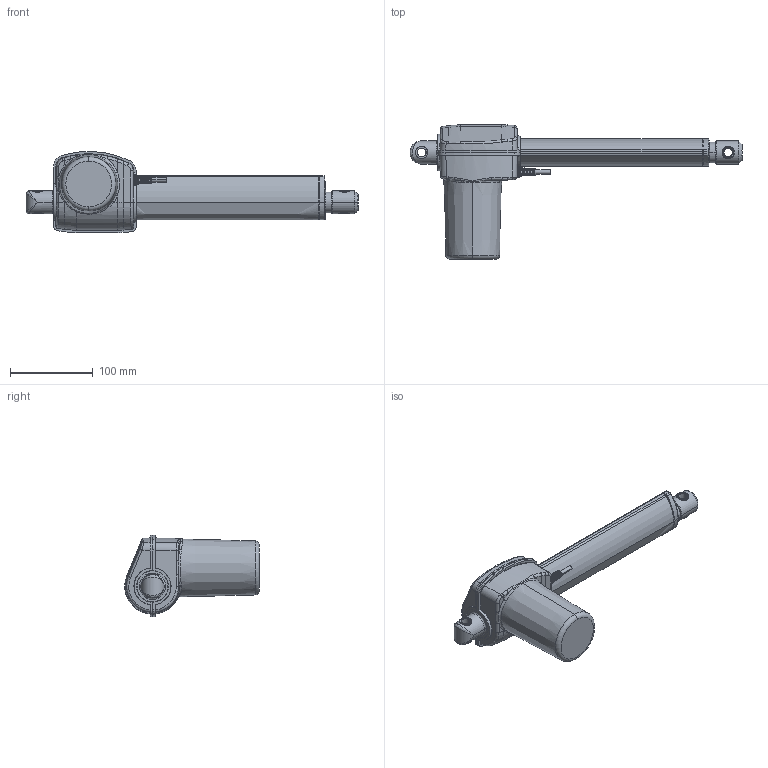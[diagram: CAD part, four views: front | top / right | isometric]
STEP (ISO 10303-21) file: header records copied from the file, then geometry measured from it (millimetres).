
FILE_DESCRIPTION((''),'2;1');
FILE_NAME('KA20_MINIHOUSING','2014-08-19T',('cnjil'),(''),'PRO/ENGINEER BY PARAMETRIC TECHNOLOGY CORPORATION, 2014000','PRO/ENGINEER BY PARAMETRIC TECHNOLOGY CORPORATION, 2014000','');
FILE_SCHEMA(('CONFIG_CONTROL_DESIGN'));
Length unit declared in the file: millimetre
Products named in the file (1): KA20_MINIHOUSING
Bounding box: 400.7 x 162.26 x 98 mm (x, y, z)
Volume: 1130874.5 mm3; surface area: 118926.3 mm2
Topology: 1 solids, 1 shells, 816 faces, 2111 edges, 1322 vertices
Faces by surface type: cylinder 279, bspline 210, plane 190, torus 89, cone 31, extrusion 9, sphere 8
Entity records: 39221 total; most frequent: CARTESIAN_POINT 16946, ORIENTED_EDGE 4218, DIRECTION 3342, EDGE_CURVE 2109, AXIS2_PLACEMENT_3D 1327, VERTEX_POINT 1322, EDGE_LOOP 863, FACE_OUTER_BOUND 816
